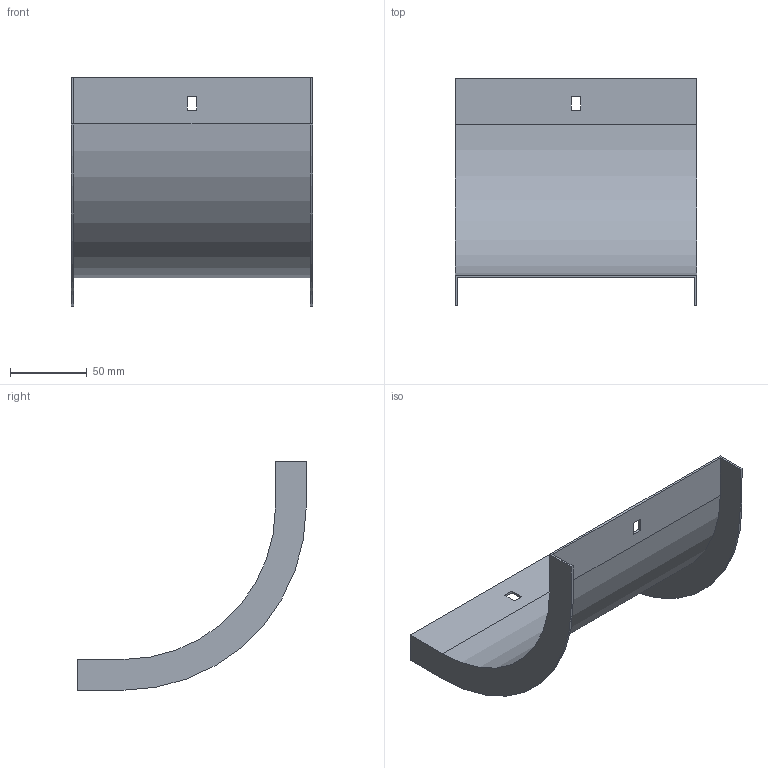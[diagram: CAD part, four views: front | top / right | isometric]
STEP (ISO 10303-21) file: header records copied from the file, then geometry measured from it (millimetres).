
FILE_DESCRIPTION (( 'STEP AP214' ), '1' );
FILE_NAME ('30G1P150.step', '2025-02-21T12:48:24', ( '' ), ( '' ), 'SwSTEP 2.0', 'SolidWorks 2023', '' );
FILE_SCHEMA (( 'AUTOMOTIVE_DESIGN' ));
Length unit declared in the file: millimetre
Products named in the file (1): 30G1P150
Bounding box: 157 x 148.5 x 148.5 mm (x, y, z)
Volume: 63523.6 mm3; surface area: 86108.1 mm2
Topology: 1 solids, 1 shells, 26 faces, 72 edges, 48 vertices
Faces by surface type: plane 22, cylinder 4
Entity records: 855 total; most frequent: CARTESIAN_POINT 147, ORIENTED_EDGE 144, DIRECTION 134, EDGE_CURVE 72, VECTOR 64, LINE 64, VERTEX_POINT 48, AXIS2_PLACEMENT_3D 35
